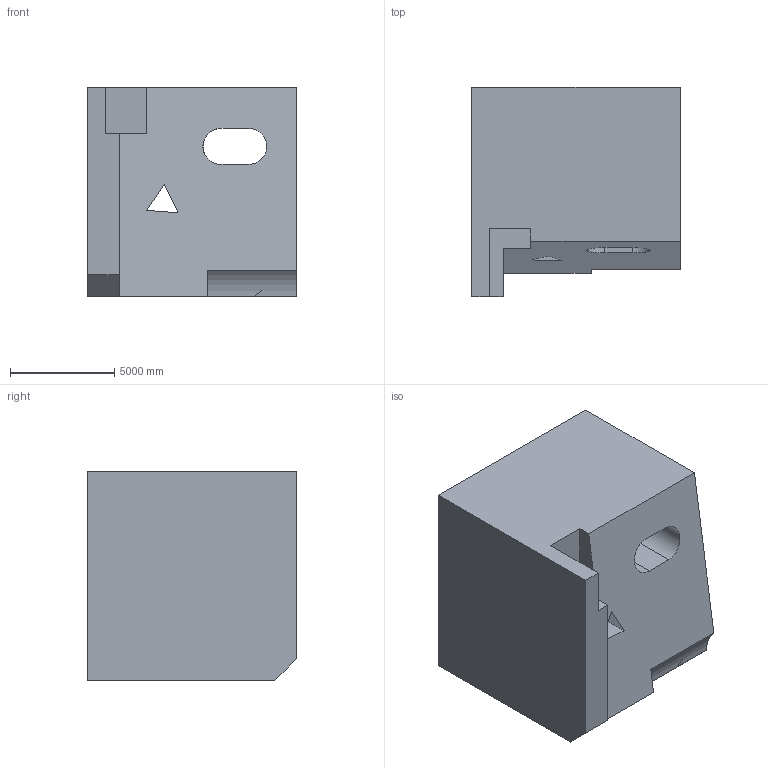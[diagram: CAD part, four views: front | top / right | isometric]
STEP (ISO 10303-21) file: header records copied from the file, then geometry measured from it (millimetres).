
FILE_DESCRIPTION (( 'STEP AP203' ), '1' );
FILE_NAME ('1798.STEP', '2022-08-19T12:58:48', ( 'user' ), ( '' ), 'SwSTEP 2.0', 'SolidWorks 2021', '' );
FILE_SCHEMA (( 'CONFIG_CONTROL_DESIGN' ));
Length unit declared in the file: centimetre
Products named in the file (1): 1798
Bounding box: 10000 x 10000 x 10000 mm (x, y, z)
Volume: 769726577658 mm3; surface area: 664605737.3 mm2
Topology: 1 solids, 1 shells, 28 faces, 75 edges, 50 vertices
Faces by surface type: plane 25, cylinder 3
Entity records: 948 total; most frequent: CARTESIAN_POINT 160, ORIENTED_EDGE 150, DIRECTION 135, EDGE_CURVE 75, LINE 69, VECTOR 69, VERTEX_POINT 50, EDGE_LOOP 33
